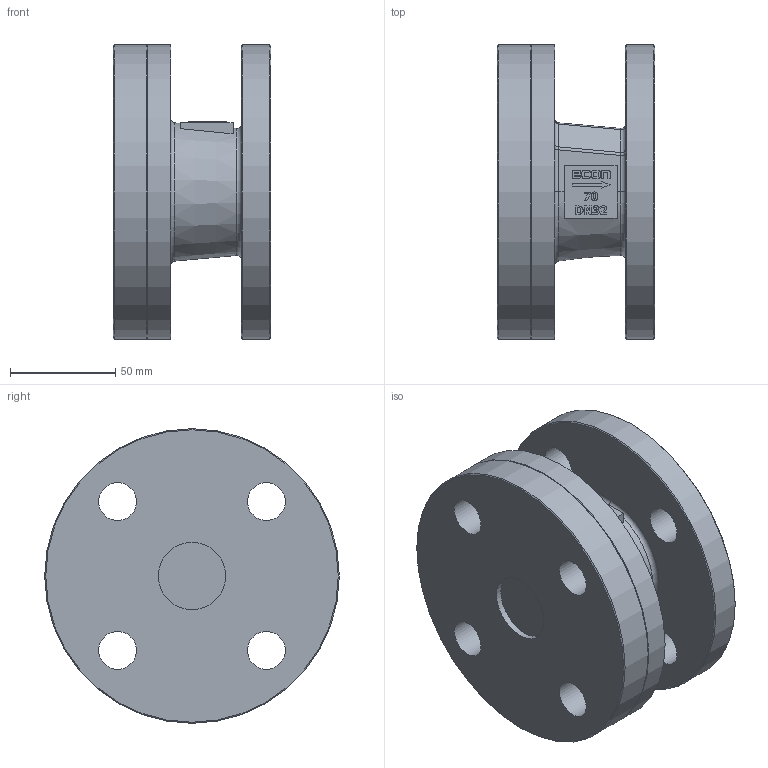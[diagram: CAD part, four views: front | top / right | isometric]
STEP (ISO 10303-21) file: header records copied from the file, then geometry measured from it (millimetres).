
FILE_DESCRIPTION(/* description */ ('Eriks item no: 13490616'),/* implementation_level */ '2;1');
FILE_NAME(/* name */ 'L:\DATA\ENG\Inventor\Econ 3D modellen\terugslagklep\70NGY\70NGY-DN32-PN16.stp',/* time_stamp */ '2023-12-05T08:40:25+01:00',/* author */ ('roger.thijssen'),/* organization */ (''),/* preprocessor_version */ 'ST-DEVELOPER v18',/* originating_system */ 'Autodesk Inventor 2020',/* authorisation */ '');
FILE_SCHEMA (('CONFIG_CONTROL_DESIGN'));
Length unit declared in the file: millimetre
Products named in the file (1): Check valve, 70NGY-DN32-PN16
Bounding box: 75 x 140 x 140 mm (x, y, z)
Volume: 706054.7 mm3; surface area: 85646.5 mm2
Topology: 1 solids, 1 shells, 216 faces, 570 edges, 375 vertices
Faces by surface type: plane 111, bspline 57, cylinder 40, cone 6, torus 2
Full cylindrical faces by diameter (mm): 18 x8, 32 x2, 140 x3
Entity records: 7320 total; most frequent: CARTESIAN_POINT 2121, ORIENTED_EDGE 1140, DIRECTION 900, EDGE_CURVE 570, VERTEX_POINT 375, LINE 362, VECTOR 362, AXIS2_PLACEMENT_3D 269
